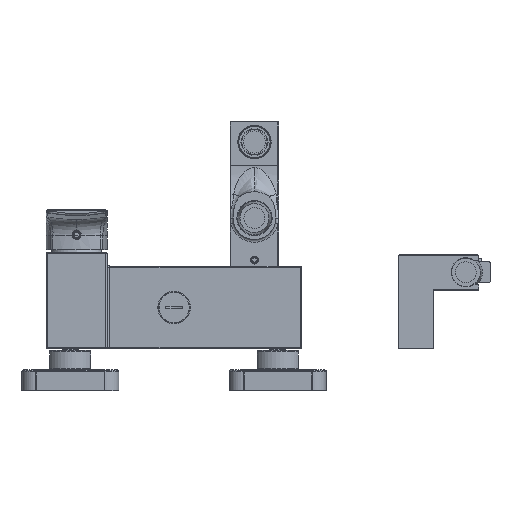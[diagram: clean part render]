
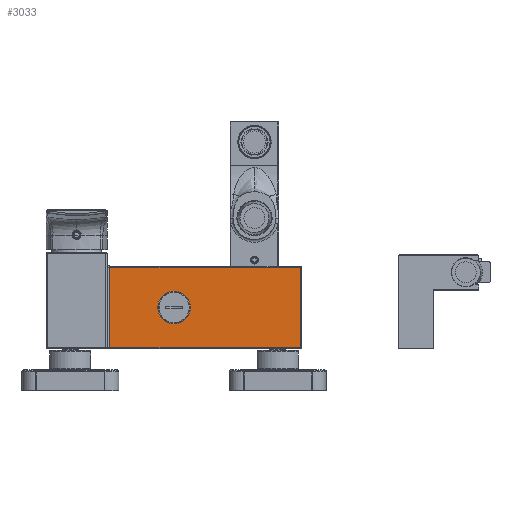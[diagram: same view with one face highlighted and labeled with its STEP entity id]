
A CAD part, front view. The second image highlights one B-rep face of the part: STEP entity #3033.
In plain terms, the highlighted planar face has unit normal (0, -1, 0).
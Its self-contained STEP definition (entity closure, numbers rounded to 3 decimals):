
#121=DIRECTION('',(-1.,0.,0.));
#122=VECTOR('',#121,138.);
#123=CARTESIAN_POINT('',(166.5,-15.,1.));
#124=LINE('',#123,#122);
#125=DIRECTION('',(0.,0.,1.));
#126=VECTOR('',#125,58.);
#127=CARTESIAN_POINT('',(28.5,-15.,1.));
#128=LINE('',#127,#126);
#129=DIRECTION('',(-1.,0.,0.));
#130=VECTOR('',#129,138.);
#131=CARTESIAN_POINT('',(166.5,-15.,59.));
#132=LINE('',#131,#130);
#133=DIRECTION('',(0.,0.,-1.));
#134=VECTOR('',#133,58.);
#135=CARTESIAN_POINT('',(166.5,-15.,59.));
#136=LINE('',#135,#134);
#137=CARTESIAN_POINT('',(75.,-15.,30.));
#138=DIRECTION('',(0.,-1.,0.));
#139=DIRECTION('',(0.,0.,-1.));
#140=AXIS2_PLACEMENT_3D('',#137,#138,#139);
#142=CARTESIAN_POINT('',(75.,-15.,30.));
#143=DIRECTION('',(0.,-1.,0.));
#144=DIRECTION('',(0.,0.,1.));
#145=AXIS2_PLACEMENT_3D('',#142,#143,#144);
#2335=CARTESIAN_POINT('',(166.5,-15.,1.));
#2337=VERTEX_POINT('',#2335);
#2342=CARTESIAN_POINT('',(28.5,-15.,1.));
#2343=VERTEX_POINT('',#2342);
#2368=CARTESIAN_POINT('',(166.5,-15.,59.));
#2369=VERTEX_POINT('',#2368);
#2384=CARTESIAN_POINT('',(75.,-15.,18.25));
#2385=CARTESIAN_POINT('',(75.,-15.,41.75));
#2386=VERTEX_POINT('',#2384);
#2387=VERTEX_POINT('',#2385);
#2678=CARTESIAN_POINT('',(28.5,-15.,59.));
#2680=VERTEX_POINT('',#2678);
#3012=CARTESIAN_POINT('',(26.5,-15.,0.));
#3013=DIRECTION('',(0.,-1.,0.));
#3014=DIRECTION('',(1.,0.,0.));
#3015=AXIS2_PLACEMENT_3D('',#3012,#3013,#3014);
#3016=PLANE('',#3015);
#3018=ORIENTED_EDGE('',*,*,#3017,.T.);
#3020=ORIENTED_EDGE('',*,*,#3019,.T.);
#3022=ORIENTED_EDGE('',*,*,#3021,.F.);
#3024=ORIENTED_EDGE('',*,*,#3023,.T.);
#3025=EDGE_LOOP('',(#3018,#3020,#3022,#3024));
#3026=FACE_OUTER_BOUND('',#3025,.F.);
#3028=ORIENTED_EDGE('',*,*,#3027,.T.);
#3030=ORIENTED_EDGE('',*,*,#3029,.T.);
#3031=EDGE_LOOP('',(#3028,#3030));
#3032=FACE_BOUND('',#3031,.F.);
#3033=ADVANCED_FACE('',(#3026,#3032),#3016,.T.);
#141=CIRCLE('',#140,11.75);
#146=CIRCLE('',#145,11.75);
#3017=EDGE_CURVE('',#2337,#2343,#124,.T.);
#3019=EDGE_CURVE('',#2343,#2680,#128,.T.);
#3021=EDGE_CURVE('',#2369,#2680,#132,.T.);
#3023=EDGE_CURVE('',#2369,#2337,#136,.T.);
#3027=EDGE_CURVE('',#2386,#2387,#141,.T.);
#3029=EDGE_CURVE('',#2387,#2386,#146,.T.);
